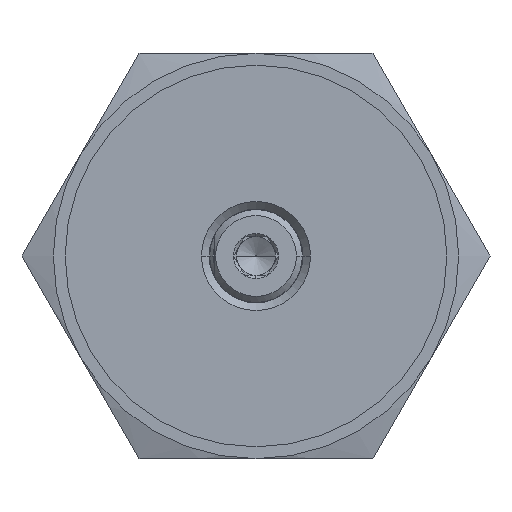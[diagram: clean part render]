
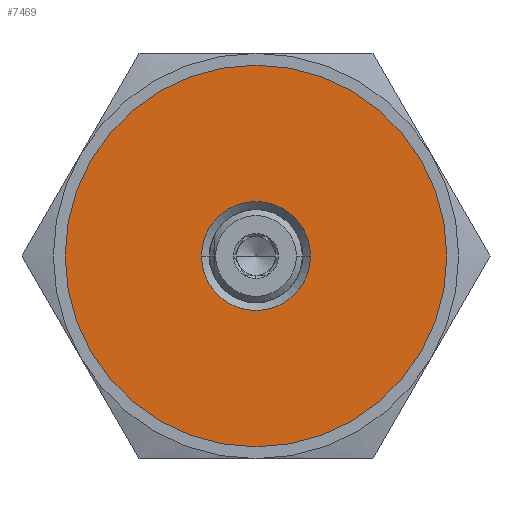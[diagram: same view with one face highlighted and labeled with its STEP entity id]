
A CAD part, left-side view. The second image highlights one B-rep face of the part: STEP entity #7469.
In plain terms, the highlighted planar face has unit normal (-1, 0, 0).
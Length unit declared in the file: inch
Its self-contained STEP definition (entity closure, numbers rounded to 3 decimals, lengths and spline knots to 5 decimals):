
#7277=CARTESIAN_POINT('',(-3.11,-0.2185,0.));
#7278=VERTEX_POINT('',#7277);
#7286=CARTESIAN_POINT('',(-3.11,0.2185,0.));
#7287=VERTEX_POINT('',#7286);
#7294=CARTESIAN_POINT('',(-3.11,0.0,0.));
#7295=DIRECTION('',(-1.0,0.0,0.0));
#7296=DIRECTION('',(0.0,-1.0,0.0));
#7297=AXIS2_PLACEMENT_3D('',#7294,#7295,#7296);
#7298=CIRCLE('',#7297,0.2185);
#7299=EDGE_CURVE('',#7287,#7278,#7298,.T.);
#7311=CARTESIAN_POINT('',(-3.11,-0.765,0.));
#7312=VERTEX_POINT('',#7311);
#7328=CARTESIAN_POINT('',(-3.11,0.765,0.));
#7329=VERTEX_POINT('',#7328);
#7336=CARTESIAN_POINT('',(-3.11,0.0,0.));
#7337=DIRECTION('',(-1.0,0.0,0.0));
#7338=DIRECTION('',(0.0,-1.0,0.0));
#7339=AXIS2_PLACEMENT_3D('',#7336,#7337,#7338);
#7340=CIRCLE('',#7339,0.765);
#7341=EDGE_CURVE('',#7312,#7329,#7340,.T.);
#7438=CARTESIAN_POINT('',(-3.11,0.0,0.));
#7439=DIRECTION('',(-1.0,0.0,0.0));
#7440=DIRECTION('',(0.0,-1.0,0.0));
#7441=AXIS2_PLACEMENT_3D('',#7438,#7439,#7440);
#7442=CIRCLE('',#7441,0.765);
#7443=EDGE_CURVE('',#7329,#7312,#7442,.T.);
#7450=CARTESIAN_POINT('',(-3.11,-0.49175,0.));
#7451=DIRECTION('',(-1.0,0.0,0.0));
#7452=DIRECTION('',(0.0,0.0,1.0));
#7453=AXIS2_PLACEMENT_3D('',#7450,#7451,#7452);
#7454=PLANE('',#7453);
#7455=ORIENTED_EDGE('',*,*,#7341,.T.);
#7456=ORIENTED_EDGE('',*,*,#7443,.T.);
#7457=EDGE_LOOP('',(#7455,#7456));
#7458=FACE_OUTER_BOUND('',#7457,.T.);
#7459=CARTESIAN_POINT('',(-3.11,0.0,0.));
#7460=DIRECTION('',(-1.0,0.0,0.0));
#7461=DIRECTION('',(0.0,-1.0,0.0));
#7462=AXIS2_PLACEMENT_3D('',#7459,#7460,#7461);
#7463=CIRCLE('',#7462,0.2185);
#7464=EDGE_CURVE('',#7278,#7287,#7463,.T.);
#7465=ORIENTED_EDGE('',*,*,#7464,.F.);
#7466=ORIENTED_EDGE('',*,*,#7299,.F.);
#7467=EDGE_LOOP('',(#7465,#7466));
#7468=FACE_BOUND('',#7467,.T.);
#7469=ADVANCED_FACE('',(#7458,#7468),#7454,.T.);
